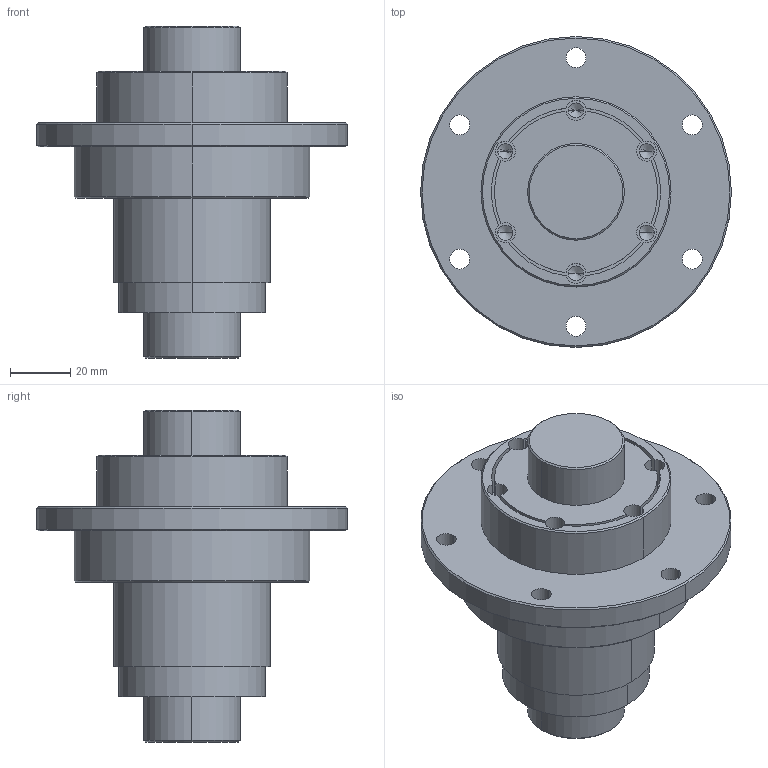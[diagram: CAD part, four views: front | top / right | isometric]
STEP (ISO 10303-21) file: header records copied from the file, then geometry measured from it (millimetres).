
FILE_DESCRIPTION (( 'STEP AP203' ), '1' );
FILE_NAME ('RLSF32.STEP', '2014-11-13T05:17:46', ( '' ), ( '' ), 'SwSTEP 2.0', 'SolidWorks 2014', '' );
FILE_SCHEMA (( 'CONFIG_CONTROL_DESIGN' ));
Length unit declared in the file: millimetre
Products named in the file (1): RLSF32
Bounding box: 103 x 103 x 110 mm (x, y, z)
Volume: 296481.7 mm3; surface area: 59814.2 mm2
Topology: 3 solids, 3 shells, 105 faces, 258 edges, 158 vertices
Faces by surface type: cylinder 70, cone 24, plane 11
Entity records: 3173 total; most frequent: DIRECTION 610, CARTESIAN_POINT 510, ORIENTED_EDGE 492, AXIS2_PLACEMENT_3D 258, EDGE_CURVE 246, VERTEX_POINT 158, CIRCLE 152, EDGE_LOOP 132
